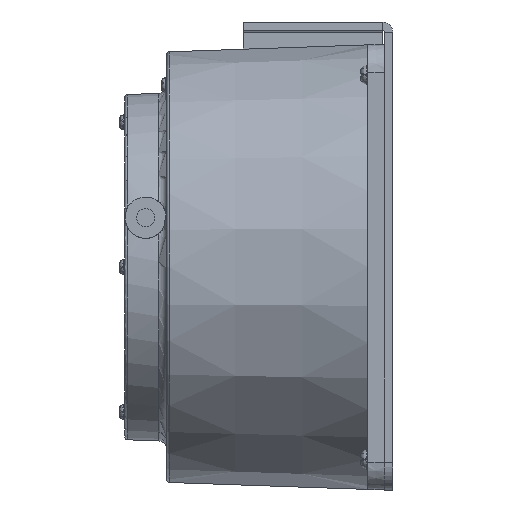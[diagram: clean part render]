
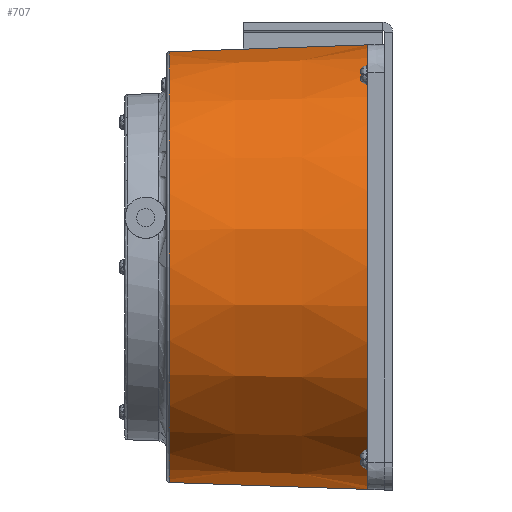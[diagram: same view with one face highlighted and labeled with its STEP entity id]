
A CAD part, left-side view. The second image highlights one B-rep face of the part: STEP entity #707.
In plain terms, the highlighted conical face has half-angle 2 degrees and reference radius 80 mm.
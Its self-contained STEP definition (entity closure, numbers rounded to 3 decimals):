
#319 = AXIS2_PLACEMENT_3D ( 'NONE', #1636, #8150, #4274 ) ;
#393 = VERTEX_POINT ( 'NONE', #1978 ) ;
#481 = DIRECTION ( 'NONE',  ( 0., -1., 0. ) ) ;
#498 = FACE_OUTER_BOUND ( 'NONE', #3767, .T. ) ;
#668 = VERTEX_POINT ( 'NONE', #2202 ) ;
#707 = ADVANCED_FACE ( 'NONE', ( #498 ), #4031, .T. ) ;
#869 = EDGE_CURVE ( 'NONE', #6688, #668, #6584, .T. ) ;
#923 = EDGE_CURVE ( 'NONE', #393, #3284, #8045, .T. ) ;
#1219 = CARTESIAN_POINT ( 'NONE',  ( 0.003, 77.235, 0. ) ) ;
#1494 = ORIENTED_EDGE ( 'NONE', *, *, #923, .F. ) ;
#1636 = CARTESIAN_POINT ( 'NONE',  ( 0.003, 6., 0. ) ) ;
#1978 = CARTESIAN_POINT ( 'NONE',  ( 0., 77.235, 77.303 ) ) ;
#2132 = DIRECTION ( 'NONE',  ( 0., -0.999, -0.035 ) ) ;
#2202 = CARTESIAN_POINT ( 'NONE',  ( 0., 6., -79.79 ) ) ;
#2220 = EDGE_CURVE ( 'NONE', #668, #3284, #2966, .T. ) ;
#2278 = AXIS2_PLACEMENT_3D ( 'NONE', #1219, #481, #3086 ) ;
#2335 = DIRECTION ( 'NONE',  ( 0., -1., 0. ) ) ;
#2417 = CIRCLE ( 'NONE', #2278, 77.303 ) ;
#2657 = CARTESIAN_POINT ( 'NONE',  ( 0., 0., -80. ) ) ;
#2664 = VECTOR ( 'NONE', #2132, 1000. ) ;
#2807 = VECTOR ( 'NONE', #7408, 1000. ) ;
#2966 = CIRCLE ( 'NONE', #319, 79.79 ) ;
#3086 = DIRECTION ( 'NONE',  ( 0., 0., -1. ) ) ;
#3284 = VERTEX_POINT ( 'NONE', #3984 ) ;
#3767 = EDGE_LOOP ( 'NONE', ( #1494, #4186, #7840, #8292 ) ) ;
#3862 = CARTESIAN_POINT ( 'NONE',  ( 0.003, 0., 0. ) ) ;
#3984 = CARTESIAN_POINT ( 'NONE',  ( 0., 6., 79.79 ) ) ;
#4031 = CONICAL_SURFACE ( 'NONE', #7081, 80., 0.035 ) ;
#4186 = ORIENTED_EDGE ( 'NONE', *, *, #8185, .T. ) ;
#4274 = DIRECTION ( 'NONE',  ( 0., 0., 1. ) ) ;
#4516 = DIRECTION ( 'NONE',  ( 0., 0., 1. ) ) ;
#4559 = CARTESIAN_POINT ( 'NONE',  ( 0., 77.235, -77.303 ) ) ;
#5947 = CARTESIAN_POINT ( 'NONE',  ( 0., 0., 80. ) ) ;
#6584 = LINE ( 'NONE', #2657, #2664 ) ;
#6688 = VERTEX_POINT ( 'NONE', #4559 ) ;
#7081 = AXIS2_PLACEMENT_3D ( 'NONE', #3862, #2335, #4516 ) ;
#7408 = DIRECTION ( 'NONE',  ( 0., -0.999, 0.035 ) ) ;
#7840 = ORIENTED_EDGE ( 'NONE', *, *, #869, .T. ) ;
#8045 = LINE ( 'NONE', #5947, #2807 ) ;
#8150 = DIRECTION ( 'NONE',  ( 0., 1., 0. ) ) ;
#8185 = EDGE_CURVE ( 'NONE', #393, #6688, #2417, .T. ) ;
#8292 = ORIENTED_EDGE ( 'NONE', *, *, #2220, .T. ) ;
